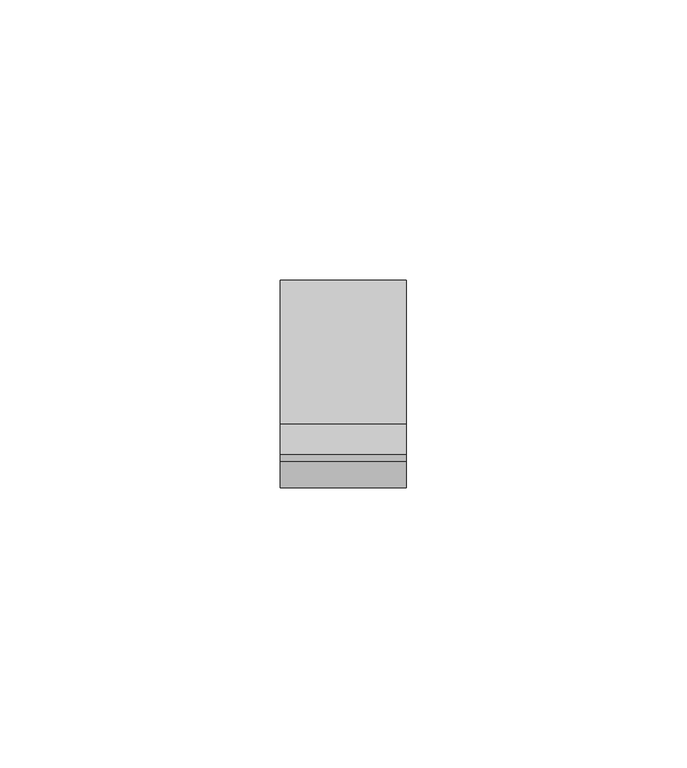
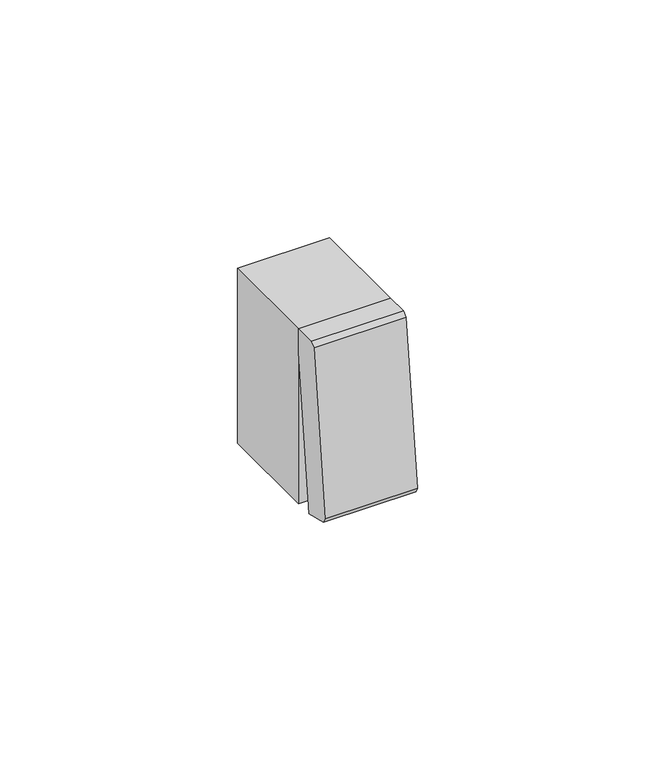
"""IFC4 building model written with IfcOpenShell, lengths in millimetres: proxy geometry."""

from ifc_helpers import new_model, si_unit, frame, origin, place, context, project, spatial, polyline, outline, extrude, source, transform, mapped, element, save


def electrical_fixtures_d4c5b2d2(model_context):
    return source(origin(), model_context, "Body", "SweptSolid", [
        extrude(outline(polyline([(-45.3066991, -20.8423049), (-46.0, -19.4477008), (-41.2925573, 21.5818457), (-40.0527044, 22.45), (-34.7, 22.45), (-34.7, 16.4732313), (-39.0907297, -22.45), (-45.3066991, -20.8423049)])), frame((0.0, 0.0, 0.0), z_axis=(1.0, 0.0, 0.0), x_axis=(0.0, 1.0, 0.0)), (0.0, 0.0, 1.0), 22.4),
        extrude(outline(polyline([(22.4, -9.1), (22.4, -34.7), (0.0, -34.7), (0.0, -9.1), (22.4, -9.1)])), frame((0.0, 0.0, -22.45), z_axis=(0.0, 0.0, 1.0), x_axis=(1.0, 0.0, 0.0)), (0.0, 0.0, 1.0), 44.9),
    ])


if __name__ == "__main__":
    model = new_model("IFC4")
    model_context = context("Model", 3, world=origin())
    ifc_project = project(units=[si_unit("LENGTHUNIT", "METRE", prefix="MILLI")], contexts=[model_context])
    site = spatial("IfcSite", under=ifc_project)
    building = spatial("IfcBuilding", under=site)
    placement = place(None, origin())
    electrical_fixtures_shape = electrical_fixtures_d4c5b2d2(model_context)
    element("IfcBuildingElementProxy", 1, Name="Electrical Fixtures", at=placement, inside=building, context=model_context, shape_type="MappedRepresentation", body=[
        mapped(electrical_fixtures_shape, transform((0.0, 0.0, 0.0), x_axis=(1.0, 0.0, 0.0), y_axis=(0.0, 1.0, 0.0), z_axis=(0.0, 0.0, 1.0))),
    ])
    save(model, "model.ifc")
